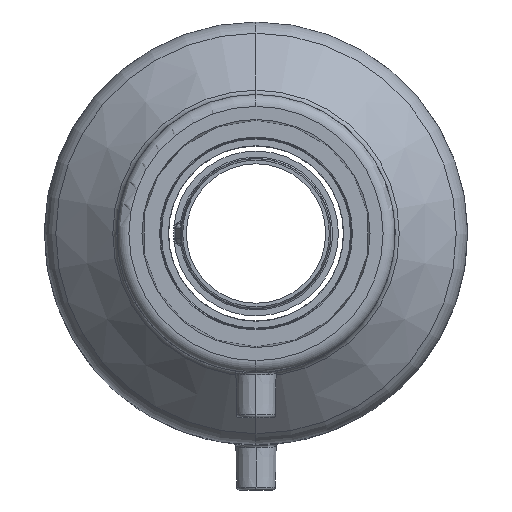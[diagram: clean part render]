
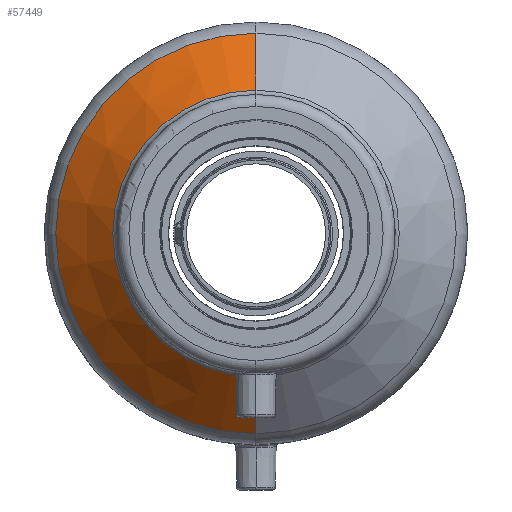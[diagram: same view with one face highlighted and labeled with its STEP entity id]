
A CAD part, left-side view. The second image highlights one B-rep face of the part: STEP entity #57449.
In plain terms, the highlighted conical face has half-angle 46.49 degrees and reference radius 66.788 mm.
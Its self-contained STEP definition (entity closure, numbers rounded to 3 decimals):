
#24604 = ORIENTED_EDGE ( 'NONE', *, *, #56682, .F. ) ;
#24606 = ORIENTED_EDGE ( 'NONE', *, *, #56684, .T. ) ;
#24608 = ORIENTED_EDGE ( 'NONE', *, *, #56679, .T. ) ;
#24610 = ORIENTED_EDGE ( 'NONE', *, *, #56686, .F. ) ;
#51785 = CARTESIAN_POINT ( 'NONE',  ( -33.536, 8.386, -36.204 ) ) ;
#51786 = CARTESIAN_POINT ( 'NONE',  ( -15.495, 8.386, 78.368 ) ) ;
#51792 = CARTESIAN_POINT ( 'NONE',  ( -15.495, 8.386, -55.208 ) ) ;
#51793 = CARTESIAN_POINT ( 'NONE',  ( -33.536, 8.386, 59.363 ) ) ;
#54408 = VERTEX_POINT ( 'NONE', #51785 ) ;
#54410 = VERTEX_POINT ( 'NONE', #51786 ) ;
#54415 = VERTEX_POINT ( 'NONE', #51792 ) ;
#54417 = VERTEX_POINT ( 'NONE', #51793 ) ;
#56679 = EDGE_CURVE ( 'NONE', #54410, #54415, #58201, .T. ) ;
#56682 = EDGE_CURVE ( 'NONE', #54417, #54408, #58205, .T. ) ;
#56684 = EDGE_CURVE ( 'NONE', #54417, #54410, #60462, .T. ) ;
#56686 = EDGE_CURVE ( 'NONE', #54408, #54415, #60467, .T. ) ;
#57449 = ADVANCED_FACE ( 'NONE', ( #62045 ), #63492, .T. ) ;
#58201 = CIRCLE ( 'NONE', #58204, 66.788 ) ;
#58203 = VECTOR ( 'NONE', #60466, 1000. ) ;
#58204 = AXIS2_PLACEMENT_3D ( 'NONE', #60455, #60456, #60457 ) ;
#58205 = CIRCLE ( 'NONE', #58208, 47.784 ) ;
#58208 = AXIS2_PLACEMENT_3D ( 'NONE', #60463, #60464, #60465 ) ;
#58209 = VECTOR ( 'NONE', #60469, 1000. ) ;
#58855 = EDGE_LOOP ( 'NONE', ( #24604, #24606, #24608, #24610 ) ) ;
#60455 = CARTESIAN_POINT ( 'NONE',  ( -15.495, 8.386, 11.58 ) ) ;
#60456 = DIRECTION ( 'NONE',  ( -1., 0., 0. ) ) ;
#60457 = DIRECTION ( 'NONE',  ( 0., 0., 1. ) ) ;
#60458 = CARTESIAN_POINT ( 'NONE',  ( -15.495, 8.386, 78.368 ) ) ;
#60462 = LINE ( 'NONE', #60458, #58203 ) ;
#60463 = CARTESIAN_POINT ( 'NONE',  ( -33.536, 8.386, 11.58 ) ) ;
#60464 = DIRECTION ( 'NONE',  ( -1., 0., 0. ) ) ;
#60465 = DIRECTION ( 'NONE',  ( 0., 0., 1. ) ) ;
#60466 = DIRECTION ( 'NONE',  ( 0.688, 0., 0.725 ) ) ;
#60467 = LINE ( 'NONE', #60468, #58209 ) ;
#60468 = CARTESIAN_POINT ( 'NONE',  ( -15.495, 8.386, -55.208 ) ) ;
#60469 = DIRECTION ( 'NONE',  ( 0.688, 0., -0.725 ) ) ;
#62044 = DIRECTION ( 'NONE',  ( 0., 0., -1. ) ) ;
#62045 = FACE_OUTER_BOUND ( 'NONE', #58855, .T. ) ;
#62047 = DIRECTION ( 'NONE',  ( 1., 0., 0. ) ) ;
#62049 = CARTESIAN_POINT ( 'NONE',  ( -15.495, 8.386, 11.58 ) ) ;
#63492 = CONICAL_SURFACE ( 'NONE', #63493, 66.788, 0.811 ) ;
#63493 = AXIS2_PLACEMENT_3D ( 'NONE', #62049, #62047, #62044 ) ;
